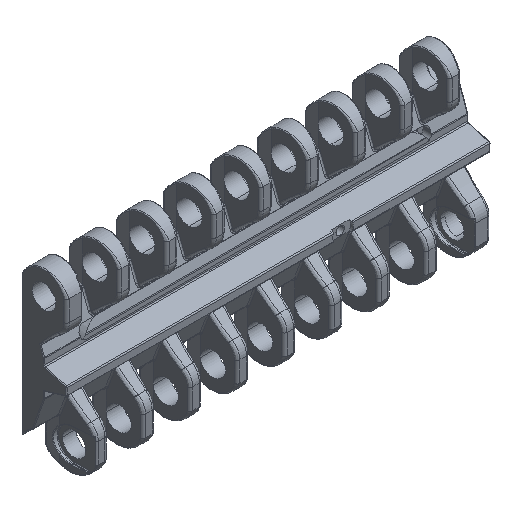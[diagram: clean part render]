
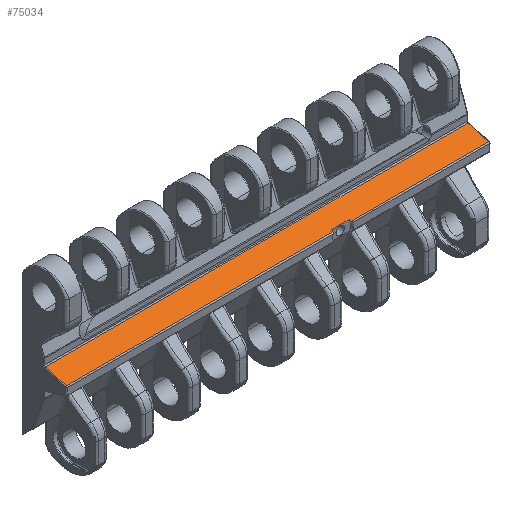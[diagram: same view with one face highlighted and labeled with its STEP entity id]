
A CAD part, isometric view. The second image highlights one B-rep face of the part: STEP entity #75034.
In plain terms, the highlighted planar face has unit normal (0, -0.283, 0.959).
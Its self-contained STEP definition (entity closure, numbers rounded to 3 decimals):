
#1921=DIRECTION('',(-1.,0.,0.));
#1922=VECTOR('',#1921,150.5);
#1923=CARTESIAN_POINT('',(12.25,-0.287,3.765));
#1924=LINE('',#1923,#1922);
#1967=DIRECTION('',(0.,0.959,0.283));
#1968=VECTOR('',#1967,7.692);
#1969=CARTESIAN_POINT('',(12.25,-7.663,1.585));
#1970=LINE('',#1969,#1968);
#27956=DIRECTION('',(0.,-0.959,-0.283));
#27957=VECTOR('',#27956,7.692);
#27958=CARTESIAN_POINT('',(-138.25,-0.287,3.765));
#27959=LINE('',#27958,#27957);
#27963=DIRECTION('',(-1.,0.,0.));
#27964=VECTOR('',#27963,6.408);
#27965=CARTESIAN_POINT('',(-36.796,-6.95,1.796));
#27966=LINE('',#27965,#27964);
#27970=CARTESIAN_POINT('',(-43.313,-7.663,
1.585));
#27971=CARTESIAN_POINT('',(-43.28,-7.425,
1.655));
#27972=CARTESIAN_POINT('',(-43.243,-7.187,
1.725));
#27973=CARTESIAN_POINT('',(-43.204,-6.95,1.796));
#27978=DIRECTION('',(-1.,0.,0.));
#27979=VECTOR('',#27978,94.937);
#27980=CARTESIAN_POINT('',(-43.313,-7.663,
1.585));
#27981=LINE('',#27980,#27979);
#27985=DIRECTION('',(-1.,0.,0.));
#27986=VECTOR('',#27985,48.937);
#27987=CARTESIAN_POINT('',(12.25,-7.663,1.585));
#27988=LINE('',#27987,#27986);
#27992=CARTESIAN_POINT('',(-36.796,-6.95,1.796));
#27993=CARTESIAN_POINT('',(-36.757,-7.187,
1.725));
#27994=CARTESIAN_POINT('',(-36.72,-7.425,
1.655));
#27995=CARTESIAN_POINT('',(-36.687,-7.663,
1.585));
#35612=CARTESIAN_POINT('',(-138.25,-7.663,1.585));
#35613=VERTEX_POINT('',#35612);
#35616=CARTESIAN_POINT('',(-138.25,-0.287,3.765));
#35617=VERTEX_POINT('',#35616);
#35682=CARTESIAN_POINT('',(12.25,-0.287,3.765));
#35683=VERTEX_POINT('',#35682);
#35686=CARTESIAN_POINT('',(12.25,-7.663,1.585));
#35687=VERTEX_POINT('',#35686);
#36908=CARTESIAN_POINT('',(-36.796,-6.95,1.796));
#36909=CARTESIAN_POINT('',(-43.204,-6.95,1.796));
#36910=VERTEX_POINT('',#36908);
#36911=VERTEX_POINT('',#36909);
#36912=VERTEX_POINT('',#27970);
#36913=VERTEX_POINT('',#27995);
#75014=CARTESIAN_POINT('',(0.,0.,3.85));
#75015=DIRECTION('',(0.,-0.283,0.959));
#75016=DIRECTION('',(0.,-0.959,-0.283));
#75017=AXIS2_PLACEMENT_3D('',#75014,#75015,#75016);
#75018=PLANE('',#75017);
#75020=ORIENTED_EDGE('',*,*,#75019,.T.);
#75022=ORIENTED_EDGE('',*,*,#75021,.F.);
#75024=ORIENTED_EDGE('',*,*,#75023,.T.);
#75025=ORIENTED_EDGE('',*,*,#75007,.F.);
#75026=ORIENTED_EDGE('',*,*,#40011,.F.);
#75027=ORIENTED_EDGE('',*,*,#40040,.F.);
#75029=ORIENTED_EDGE('',*,*,#75028,.T.);
#75031=ORIENTED_EDGE('',*,*,#75030,.F.);
#75032=EDGE_LOOP('',(#75020,#75022,#75024,#75025,#75026,#75027,#75029,#75031));
#75033=FACE_OUTER_BOUND('',#75032,.F.);
#27974=B_SPLINE_CURVE_WITH_KNOTS('',3,(#27970,#27971,#27972,#27973),
.UNSPECIFIED.,.F.,.F.,(4,4),(0.,1.),.UNSPECIFIED.);
#27996=B_SPLINE_CURVE_WITH_KNOTS('',3,(#27992,#27993,#27994,#27995),
.UNSPECIFIED.,.F.,.F.,(4,4),(0.,1.),.UNSPECIFIED.);
#40011=EDGE_CURVE('',#35683,#35617,#1924,.T.);
#40040=EDGE_CURVE('',#35687,#35683,#1970,.T.);
#75007=EDGE_CURVE('',#35617,#35613,#27959,.T.);
#75019=EDGE_CURVE('',#36910,#36911,#27966,.T.);
#75021=EDGE_CURVE('',#36912,#36911,#27974,.T.);
#75023=EDGE_CURVE('',#36912,#35613,#27981,.T.);
#75028=EDGE_CURVE('',#35687,#36913,#27988,.T.);
#75030=EDGE_CURVE('',#36910,#36913,#27996,.T.);
#75034=ADVANCED_FACE('',(#75033),#75018,.T.);
